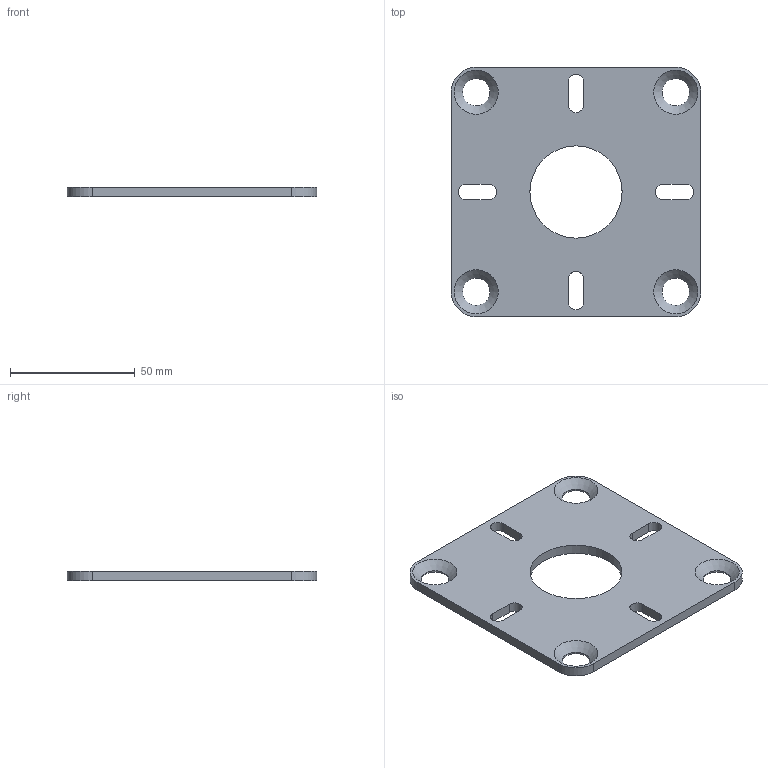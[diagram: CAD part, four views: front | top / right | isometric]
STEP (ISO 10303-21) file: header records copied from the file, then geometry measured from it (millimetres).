
FILE_DESCRIPTION(/* description */ ('MOTOR PLATE '),/* implementation_level */ '2;1');
FILE_NAME(/* name */ '500-3075.stp',/* time_stamp */ '2022-09-22T08:43:48+02:00',/* author */ ('RH'),/* organization */ ('CARRYLINE'),/* preprocessor_version */ 'ST-DEVELOPER v19.2',/* originating_system */ 'Autodesk Inventor 2023',/* authorisation */ '');
FILE_SCHEMA (('AUTOMOTIVE_DESIGN { 1 0 10303 214 3 1 1 }'));
Length unit declared in the file: millimetre
Products named in the file (1): 500-3075
Bounding box: 100 x 100 x 4 mm (x, y, z)
Volume: 31517.1 mm3; surface area: 19168.9 mm2
Topology: 1 solids, 1 shells, 35 faces, 95 edges, 62 vertices
Faces by surface type: cylinder 17, plane 14, cone 4
Full cylindrical faces by diameter (mm): 11 x4, 37 x1
Entity records: 1194 total; most frequent: DIRECTION 205, CARTESIAN_POINT 193, ORIENTED_EDGE 190, EDGE_CURVE 95, AXIS2_PLACEMENT_3D 74, VERTEX_POINT 62, LINE 57, VECTOR 57
